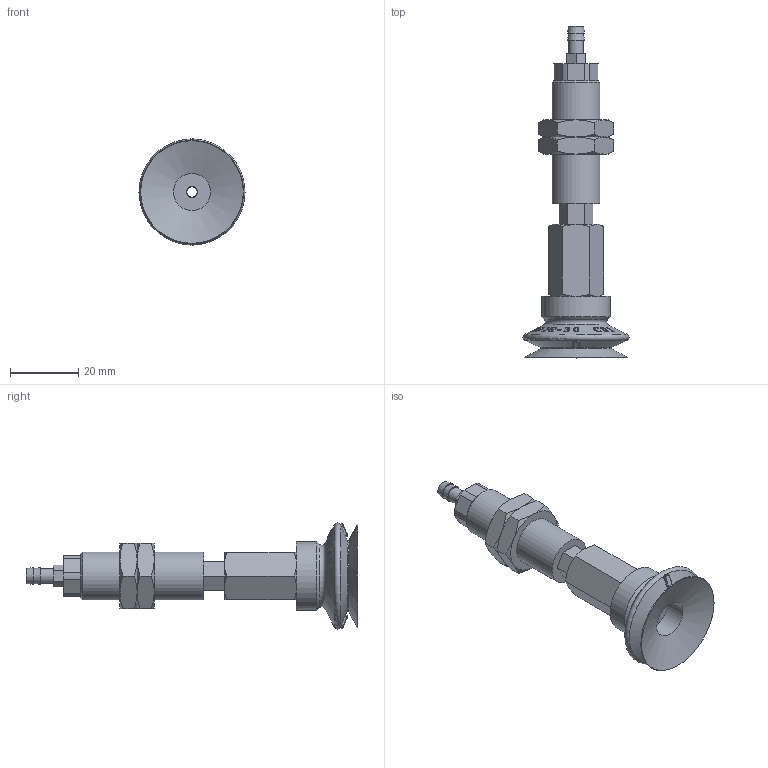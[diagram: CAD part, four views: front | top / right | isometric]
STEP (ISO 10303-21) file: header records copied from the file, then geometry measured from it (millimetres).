
FILE_DESCRIPTION(('STEP AP214'),'1');
FILE_NAME('-T.stp','2026-01-21T06:14:46',(' '),(' '),'Spatial InterOp 3D',' ',' ');
FILE_SCHEMA(('AUTOMOTIVE_DESIGN { 1 0 10303 214 1 1 1 1 }'));
Length unit declared in the file: millimetre
Products named in the file (8): BNABPJTH-30-6-※-T; T; BPJG-30-※; ADAPTER; NAPJTH-30-6-MBODY; Adapter-30-NAPJ; NAPJH-30-6-NUT; NAPJTH-30-6-FBODY
Assembly tree (8 placements, depth 2):
  BNABPJTH-30-6-※-T
    T
    BPJG-30-※
    ADAPTER
    NAPJTH-30-6-MBODY
    Adapter-30-NAPJ
    NAPJH-30-6-NUT  x2
    NAPJTH-30-6-FBODY
Bounding box: 30.99 x 97 x 30.99 mm (x, y, z)
Volume: 17428.7 mm3; surface area: 12824.9 mm2
Topology: 8 solids, 8 shells, 798 faces, 2206 edges, 1449 vertices
Faces by surface type: plane 691, cone 70, cylinder 30, torus 7
Full cylindrical faces by diameter (mm): 3 x4, 4.134 x1, 4.3 x1, 4.917 x1, 5 x1, 5.8 x1, 6 x1, 10.8 x1, 11 x1, 13.188 x2, 14 x1, 20 x1
Entity records: 31862 total; most frequent: CARTESIAN_POINT 7815, ORIENTED_EDGE 4240, DIRECTION 2713, EDGE_CURVE 2120, VERTEX_POINT 1417, B_SPLINE_CURVE_WITH_KNOTS 1084, LINE 927, VECTOR 927
